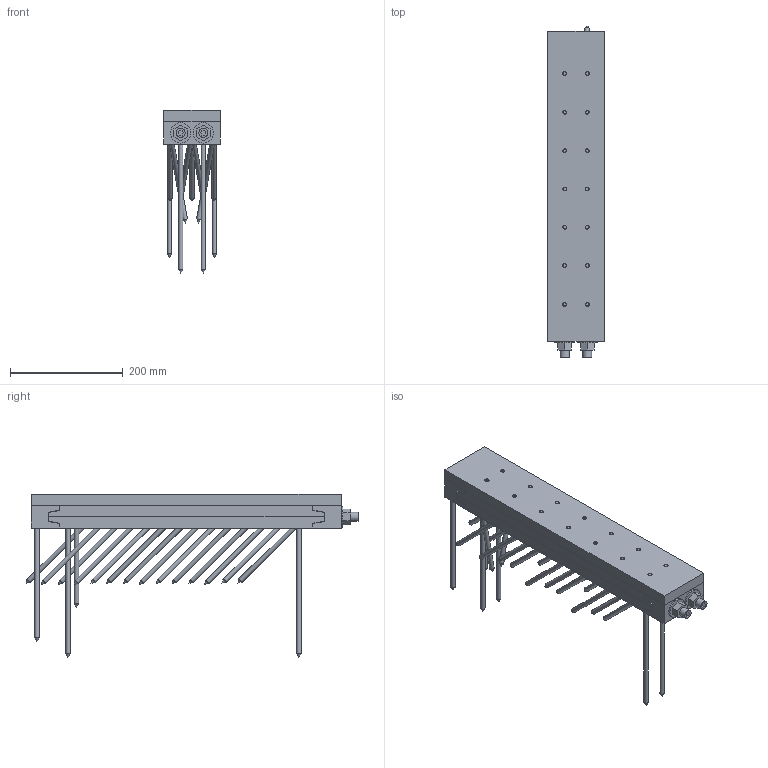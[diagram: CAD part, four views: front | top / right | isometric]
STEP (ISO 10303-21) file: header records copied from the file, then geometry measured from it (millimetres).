
FILE_DESCRIPTION(/* description */ ('Unknown'),/* implementation_level */ '2;1');
FILE_NAME(/* name */ 'MEGANT_550x100x40_Holz-Stahl-Anschluss_Verdeckt',/* time_stamp */ '2022-01-31T16:11:37+01:00',/* author */ ('Unknown'),/* organization */ ('Unknown'),/* preprocessor_version */ 'ST-DEVELOPER v16.7',/* originating_system */ 'Solid Edge',/* authorisation */ 'Unknown');
FILE_SCHEMA (('AUTOMOTIVE_DESIGN {1 0 10303 214 3 1 1}'));
Length unit declared in the file: millimetre
Products named in the file (16): MEGANT_550x100x40_Holz-Stahl-Anschluss_Verdeckt; Verbinderplatte_490x100x20_NT; Verbinderplatte_490x100x20; SK_Schraube_8x240; SK_Schraube_8x160; Verbinderplatte_490x100x20_HT_Stahlanschluss_14xM8x30; Verbinderplatte_490x100x20_Stahlanschluss_14xM8x30; SK_M8x30; Spannbacke_oben_100x50x40; Spannbacke_unten_100x50x40_NT; Spannbacke_unten_100x50x40; Stahlplatte_550x100x20_14xSKM8x30; Gewindestange_M16_L580; Beilagscheibe_M16; Mutter_M16
Assembly tree (56 placements, depth 3):
  MEGANT_550x100x40_Holz-Stahl-Anschluss_Verdeckt
    Verbinderplatte_490x100x20_NT
      Verbinderplatte_490x100x20
      SK_Schraube_8x240  x4
      SK_Schraube_8x160  x23
    Verbinderplatte_490x100x20_HT_Stahlanschluss_14xM8x30
      Verbinderplatte_490x100x20_Stahlanschluss_14xM8x30
      SK_M8x30  x14
    Spannbacke_oben_100x50x40
    Spannbacke_unten_100x50x40_NT
      Spannbacke_unten_100x50x40
      SK_Schraube_8x240  x2
    Stahlplatte_550x100x20_14xSKM8x30
    Gewindestange_M16_L580  x2
      Gewindestange_M16_L580
      Beilagscheibe_M16
      Mutter_M16
Bounding box: 100 x 589.49 x 290 mm (x, y, z)
Volume: 3341516 mm3; surface area: 721504.8 mm2
Topology: 54 solids, 54 shells, 679 faces, 1619 edges, 1015 vertices
Faces by surface type: cylinder 270, plane 255, cone 154
Full cylindrical faces by diameter (mm): 6.647 x28, 8 x43, 8.5 x68, 13.835 x2, 14 x2, 15 x83, 16 x16, 17 x18, 36 x2
Entity records: 13029 total; most frequent: DIRECTION 2206, CARTESIAN_POINT 1980, ORIENTED_EDGE 1654, AXIS2_PLACEMENT_3D 879, FACE_BOUND 866, EDGE_LOOP 864, EDGE_CURVE 827, VERTEX_POINT 653
